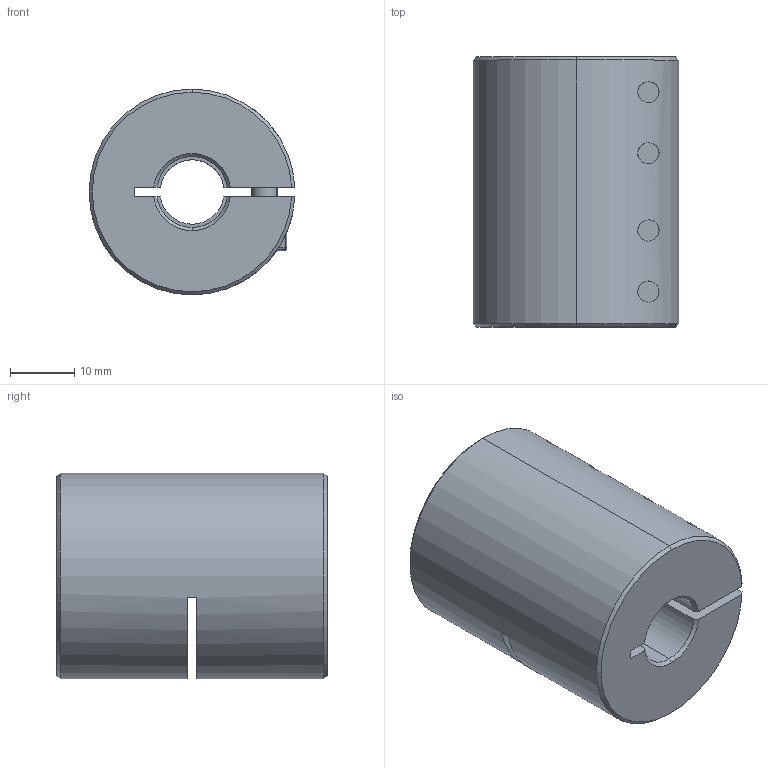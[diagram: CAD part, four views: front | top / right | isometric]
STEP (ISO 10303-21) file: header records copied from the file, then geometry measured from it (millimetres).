
FILE_DESCRIPTION (( 'STEP AP203' ), '1' );
FILE_NAME ('LL-B-D32L42-10-11.STEP', '2021-11-05T07:47:28', ( '' ), ( '' ), 'SwSTEP 2.0', 'SolidWorks 2018', '' );
FILE_SCHEMA (( 'CONFIG_CONTROL_DESIGN' ));
Length unit declared in the file: millimetre
Products named in the file (1): LL-B-D32L42-10-11
Bounding box: 31.98 x 42 x 32 mm (x, y, z)
Volume: 27815.1 mm3; surface area: 10308.8 mm2
Topology: 1 solids, 1 shells, 193 faces, 492 edges, 309 vertices
Faces by surface type: plane 88, cylinder 77, cone 20, torus 8
Entity records: 6376 total; most frequent: CARTESIAN_POINT 1559, DIRECTION 1037, ORIENTED_EDGE 968, EDGE_CURVE 484, AXIS2_PLACEMENT_3D 403, VERTEX_POINT 309, VECTOR 231, LINE 231
